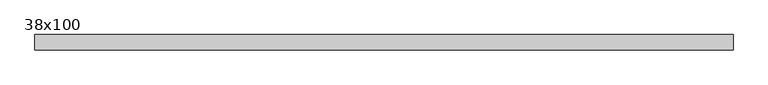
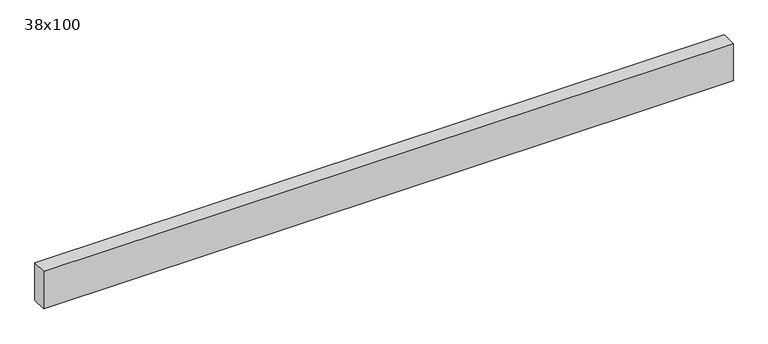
"""IFC4 building model written with IfcOpenShell, lengths in millimetres: beam geometry, Poutre - Bois de construction de dimensions courantes : 38x100."""

import ifcopenshell
import ifcopenshell.guid

model = None  # the IFC model being written
_history = None  # IfcOwnerHistory: only IFC2X3 demands one
_inside = {}  # id of a spatial element -> (the spatial element, [elements in it])
_under = {}  # id of a project, library or spatial element -> (it, [spatial elements below it])
_declared = {}  # id of a project -> (the project, [libraries it declares])
_typed = {}  # id of a type object -> (the type object, [elements of that type])
_made_of = {}  # id of a material, layer set ... -> (it, [elements and type objects made of it])


def new_model(schema):
    """Start an empty IFC model of exactly this schema.

    Asked for "IFC4X3", IfcOpenShell would pick the latest addendum, in which some entities
    have other attributes; the version numbers below select the first issue.
    IFC2X3 requires an IfcOwnerHistory on every rooted entity: one is made here for all.
    """
    global model, _history
    if schema == "IFC4X3":
        model = ifcopenshell.file(schema_version=(4, 3, 0, 0))
    else:
        model = ifcopenshell.file(schema=schema)
    _inside.clear()
    _under.clear()
    _declared.clear()
    _typed.clear()
    _made_of.clear()
    _history = None
    if model.schema == "IFC2X3":
        org = make("IfcOrganization", Name="unknown")
        user = make(
            "IfcPersonAndOrganization",
            ThePerson=make("IfcPerson", FamilyName="unknown"),
            TheOrganization=org,
        )
        app = make(
            "IfcApplication",
            ApplicationDeveloper=org,
            Version="unknown",
            ApplicationFullName="unknown",
            ApplicationIdentifier="unknown",
        )
        _history = make(
            "IfcOwnerHistory",
            OwningUser=user,
            OwningApplication=app,
            ChangeAction="ADDED",
            CreationDate=0,
        )
    return model


def make(cls, **values):
    """One entity of the class cls with the attributes given. An attribute that is None is left unset."""
    return model.create_entity(
        cls, **{name: value for name, value in values.items() if value is not None}
    )


def rooted(cls, **values):
    """An entity with a GlobalId (a new one), such as an element, a storey or a relation."""
    return make(cls, GlobalId=ifcopenshell.guid.new(), OwnerHistory=_history, **values)


def si_unit(unit_type, name, prefix=None):
    """IfcSIUnit, for example si_unit("LENGTHUNIT", "METRE", prefix="MILLI")."""
    return make("IfcSIUnit", UnitType=unit_type, Prefix=prefix, Name=name)


def assignment(units):
    """IfcUnitAssignment: the units of a project."""
    return None if units is None else make("IfcUnitAssignment", Units=units)


def point(xyz):
    """IfcCartesianPoint."""
    return None if xyz is None else make("IfcCartesianPoint", Coordinates=xyz)


def direction(xyz):
    """IfcDirection."""
    return None if xyz is None else make("IfcDirection", DirectionRatios=xyz)


def frame(location, z_axis=None, x_axis=None):
    """IfcAxis2Placement3D, a coordinate frame: its origin and axes. An axis left out is left unset."""
    return make(
        "IfcAxis2Placement3D",
        Location=point(location),
        Axis=direction(z_axis),
        RefDirection=direction(x_axis),
    )


def origin():
    """The frame at (0, 0, 0) with its axes left unset."""
    return frame((0.0, 0.0, 0.0))


def place(relative_to, where):
    """IfcLocalPlacement: puts the frame where relative to a parent placement (None: the world)."""
    return make(
        "IfcLocalPlacement", PlacementRelTo=relative_to, RelativePlacement=where
    )


def context(
    kind, dimensions, precision=None, world=None, true_north=None, identifier=None
):
    """IfcGeometricRepresentationContext, for example the 3D "Model" context."""
    return make(
        "IfcGeometricRepresentationContext",
        ContextIdentifier=identifier,
        ContextType=kind,
        CoordinateSpaceDimension=dimensions,
        Precision=precision,
        WorldCoordinateSystem=world,
        TrueNorth=true_north,
    )


def project(units=None, contexts=None):
    """IfcProject with its units and contexts."""
    return rooted(
        "IfcProject",
        Name="project",
        RepresentationContexts=contexts,
        UnitsInContext=assignment(units),
    )


def spatial(cls, under=None, at=None, **own):
    """A site, building, storey or space (cls), placed at a placement, below another one or the project."""
    s = rooted(cls, ObjectPlacement=at, **own)
    if under is not None:
        _under.setdefault(under.id(), (under, []))[1].append(s)
    return s


def polyline(points):
    """IfcPolyline through the points."""
    return make("IfcPolyline", Points=[point(p) for p in points])


def outline(outer, holes=None, kind="AREA"):
    """IfcArbitraryClosedProfileDef: a profile drawn as a closed curve; with holes, ...WithVoids."""
    if holes is None:
        return make("IfcArbitraryClosedProfileDef", ProfileType=kind, OuterCurve=outer)
    return make(
        "IfcArbitraryProfileDefWithVoids",
        ProfileType=kind,
        OuterCurve=outer,
        InnerCurves=holes,
    )


def extrude(swept, where, along, depth):
    """IfcExtrudedAreaSolid: the profile swept, set in the frame where, extruded along a direction by depth."""
    return make(
        "IfcExtrudedAreaSolid",
        SweptArea=swept,
        Position=where,
        ExtrudedDirection=direction(along),
        Depth=depth,
    )


def shape(context_of_items, identifier, shape_type, items):
    """IfcShapeRepresentation: the items that make up one representation, for example the "Body"."""
    return make(
        "IfcShapeRepresentation",
        ContextOfItems=context_of_items,
        RepresentationIdentifier=identifier,
        RepresentationType=shape_type,
        Items=items,
    )


def source(mapping_origin, context_of_items, identifier, shape_type, items):
    """IfcRepresentationMap: a shape defined once, which mapped items show again and again."""
    return make(
        "IfcRepresentationMap",
        MappingOrigin=mapping_origin,
        MappedRepresentation=shape(context_of_items, identifier, shape_type, items),
    )


def transform(
    local_origin,
    x_axis=None,
    y_axis=None,
    z_axis=None,
    scale=None,
    scale2=None,
    scale3=None,
    uniform=True,
):
    """IfcCartesianTransformationOperator3D, or its non-uniform kind. x_axis, y_axis, z_axis: its Axis1, 2, 3."""
    if uniform:
        return make(
            "IfcCartesianTransformationOperator3D",
            Axis1=direction(x_axis),
            Axis2=direction(y_axis),
            LocalOrigin=point(local_origin),
            Scale=scale,
            Axis3=direction(z_axis),
        )
    return make(
        "IfcCartesianTransformationOperator3DnonUniform",
        Axis1=direction(x_axis),
        Axis2=direction(y_axis),
        LocalOrigin=point(local_origin),
        Scale=scale,
        Axis3=direction(z_axis),
        Scale2=scale2,
        Scale3=scale3,
    )


def mapped(mapping_source, mapping_target):
    """IfcMappedItem: shows the shape of a source again, moved by a transform."""
    return make(
        "IfcMappedItem", MappingSource=mapping_source, MappingTarget=mapping_target
    )


def made_of(thing, what):
    """Note that an element or type object is made of a material, layer set ...; save() writes the relation."""
    if what is not None:
        _made_of.setdefault(what.id(), (what, []))[1].append(thing)
    return thing


def element(
    cls,
    number,
    at=None,
    inside=None,
    cuts=None,
    type_object=None,
    material=None,
    context=None,
    identifier="Body",
    shape_type=None,
    held_by="IfcProductDefinitionShape",
    body=None,
    shapes=None,
    **own,
):
    """One element of the class cls, such as IfcWall. Its Tag is "e" and its number.

    at: its placement. inside: the storey or other place that contains it. cuts: it is an
    opening in that element (IfcRelVoidsElement). A single representation is given by context,
    identifier, shape_type and body (its items); several are given by shapes. held_by: the class
    of the entity that holds the representations. save() writes the other relations.
    """
    e = rooted(cls, Tag="e%d" % number, ObjectPlacement=at, **own)
    if body is not None:
        shapes = [shape(context, identifier, shape_type, body)]
    if shapes is not None:
        e.Representation = make(held_by, Representations=shapes)
    if inside is not None:
        _inside.setdefault(inside.id(), (inside, []))[1].append(e)
    if cuts is not None:
        rooted(
            "IfcRelVoidsElement", RelatingBuildingElement=cuts, RelatedOpeningElement=e
        )
    if type_object is not None:
        _typed.setdefault(type_object.id(), (type_object, []))[1].append(e)
    return made_of(e, material)


def aggregate(whole, parts):
    """IfcRelAggregates: a whole, such as a stair, and the parts it consists of."""
    return rooted("IfcRelAggregates", RelatingObject=whole, RelatedObjects=parts)


def save(model, path):
    """Write the relations noted so far, then the file.

    IfcRelAggregates (storeys below a building ...), IfcRelContainedInSpatialStructure (elements
    in a storey), IfcRelDefinesByType, IfcRelAssociatesMaterial and IfcRelDeclares: one each for
    every whole, place, type object, material and project.
    """
    for whole, parts in _under.values():
        aggregate(whole, parts)
    for where, things in _inside.values():
        rooted(
            "IfcRelContainedInSpatialStructure",
            RelatedElements=things,
            RelatingStructure=where,
        )
    for kind, things in _typed.values():
        rooted("IfcRelDefinesByType", RelatedObjects=things, RelatingType=kind)
    for what, things in _made_of.values():
        rooted("IfcRelAssociatesMaterial", RelatedObjects=things, RelatingMaterial=what)
    for by, libraries in _declared.values():
        rooted("IfcRelDeclares", RelatingContext=by, RelatedDefinitions=libraries)
    model.write(path)


def beam_38x100_b18047dc(model_context):
    return source(origin(), model_context, "Body", "SweptSolid", [
        extrude(outline(polyline([(844.5, 19.05), (844.5, -19.05), (-899.5, -19.05), (-899.5, 19.05), (844.5, 19.05)])), frame((0.0, 0.0, -50.0), z_axis=(0.0, 0.0, 1.0), x_axis=(1.0, 0.0, 0.0)), (0.0, 0.0, 1.0), 100.0),
    ])


if __name__ == "__main__":
    model = new_model("IFC4")
    model_context = context("Model", 3, world=origin())
    ifc_project = project(units=[si_unit("LENGTHUNIT", "METRE", prefix="MILLI")], contexts=[model_context])
    site = spatial("IfcSite", under=ifc_project)
    building = spatial("IfcBuilding", under=site)
    placement = place(None, origin())
    beam_38x100_shape = beam_38x100_b18047dc(model_context)
    element("IfcBeam", 1, ObjectType="Poutre - Bois de construction de dimensions courantes : 38x100", at=placement, inside=building, context=model_context, shape_type="MappedRepresentation", body=[
        mapped(beam_38x100_shape, transform((0.0, 0.0, 0.0), x_axis=(1.0, 0.0, 0.0), y_axis=(0.0, 1.0, 0.0), z_axis=(0.0, 0.0, 1.0))),
    ])
    save(model, "model.ifc")
